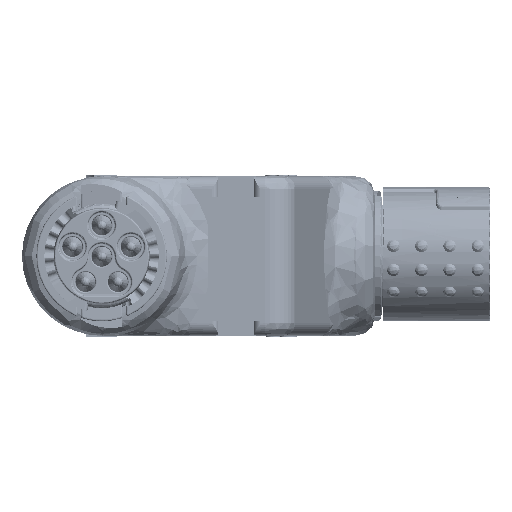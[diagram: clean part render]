
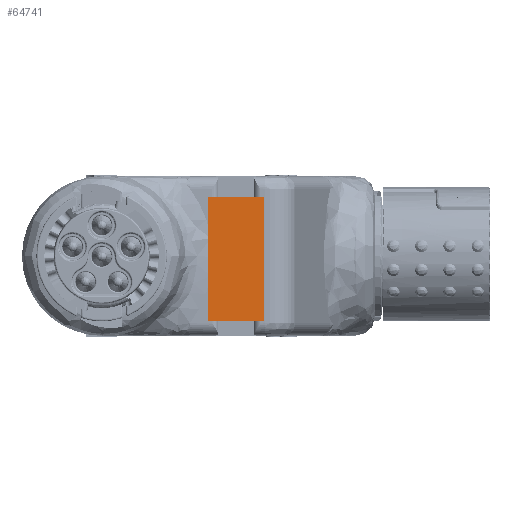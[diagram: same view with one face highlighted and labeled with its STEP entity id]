
A CAD part, left-side view. The second image highlights one B-rep face of the part: STEP entity #64741.
In plain terms, the highlighted planar face has unit normal (-1, 0, 0).
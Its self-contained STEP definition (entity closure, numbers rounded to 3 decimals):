
#45 = CARTESIAN_POINT ( 'NONE',  ( -1., -21.539, 2.275 ) ) ;
#325 = EDGE_CURVE ( 'NONE', #145465, #114936, #159415, .T. ) ;
#16216 = DIRECTION ( 'NONE',  ( -1., 0., 0. ) ) ;
#22451 = EDGE_CURVE ( 'NONE', #125854, #145465, #89970, .T. ) ;
#23088 = CARTESIAN_POINT ( 'NONE',  ( -1., -21.539, 22.125 ) ) ;
#26856 = VERTEX_POINT ( 'NONE', #137901 ) ;
#27040 = PLANE ( 'NONE',  #101396 ) ;
#31007 = LINE ( 'NONE', #170830, #78620 ) ;
#46942 = DIRECTION ( 'NONE',  ( 0., 0., 1. ) ) ;
#47563 = CARTESIAN_POINT ( 'NONE',  ( -1., -25.989, 2.275 ) ) ;
#50200 = LINE ( 'NONE', #76261, #109844 ) ;
#52281 = EDGE_CURVE ( 'NONE', #114936, #26856, #50200, .T. ) ;
#63939 = CARTESIAN_POINT ( 'NONE',  ( -1., -25.989, 2.275 ) ) ;
#64741 = ADVANCED_FACE ( 'NONE', ( #176818 ), #27040, .T. ) ;
#76261 = CARTESIAN_POINT ( 'NONE',  ( -1., -17.089, 2.275 ) ) ;
#78620 = VECTOR ( 'NONE', #88354, 1000. ) ;
#85212 = CARTESIAN_POINT ( 'NONE',  ( -1., -25.989, 22.125 ) ) ;
#88354 = DIRECTION ( 'NONE',  ( 0., -1., 0. ) ) ;
#89713 = DIRECTION ( 'NONE',  ( 0., 0., -1. ) ) ;
#89970 = LINE ( 'NONE', #63939, #125223 ) ;
#94973 = EDGE_CURVE ( 'NONE', #26856, #125854, #31007, .T. ) ;
#101396 = AXIS2_PLACEMENT_3D ( 'NONE', #45, #16216, #140862 ) ;
#102683 = ORIENTED_EDGE ( 'NONE', *, *, #22451, .T. ) ;
#104833 = EDGE_LOOP ( 'NONE', ( #137079, #142812, #112139, #102683 ) ) ;
#109844 = VECTOR ( 'NONE', #89713, 1000. ) ;
#112139 = ORIENTED_EDGE ( 'NONE', *, *, #94973, .T. ) ;
#114936 = VERTEX_POINT ( 'NONE', #148403 ) ;
#125223 = VECTOR ( 'NONE', #46942, 1000. ) ;
#125854 = VERTEX_POINT ( 'NONE', #47563 ) ;
#132519 = DIRECTION ( 'NONE',  ( 0., 1., 0. ) ) ;
#137079 = ORIENTED_EDGE ( 'NONE', *, *, #325, .T. ) ;
#137901 = CARTESIAN_POINT ( 'NONE',  ( -1., -17.089, 2.275 ) ) ;
#140862 = DIRECTION ( 'NONE',  ( 0., -1., 0. ) ) ;
#142812 = ORIENTED_EDGE ( 'NONE', *, *, #52281, .T. ) ;
#142948 = VECTOR ( 'NONE', #132519, 1000. ) ;
#145465 = VERTEX_POINT ( 'NONE', #85212 ) ;
#148403 = CARTESIAN_POINT ( 'NONE',  ( -1., -17.089, 22.125 ) ) ;
#159415 = LINE ( 'NONE', #23088, #142948 ) ;
#170830 = CARTESIAN_POINT ( 'NONE',  ( -1., -21.539, 2.275 ) ) ;
#176818 = FACE_OUTER_BOUND ( 'NONE', #104833, .T. ) ;
